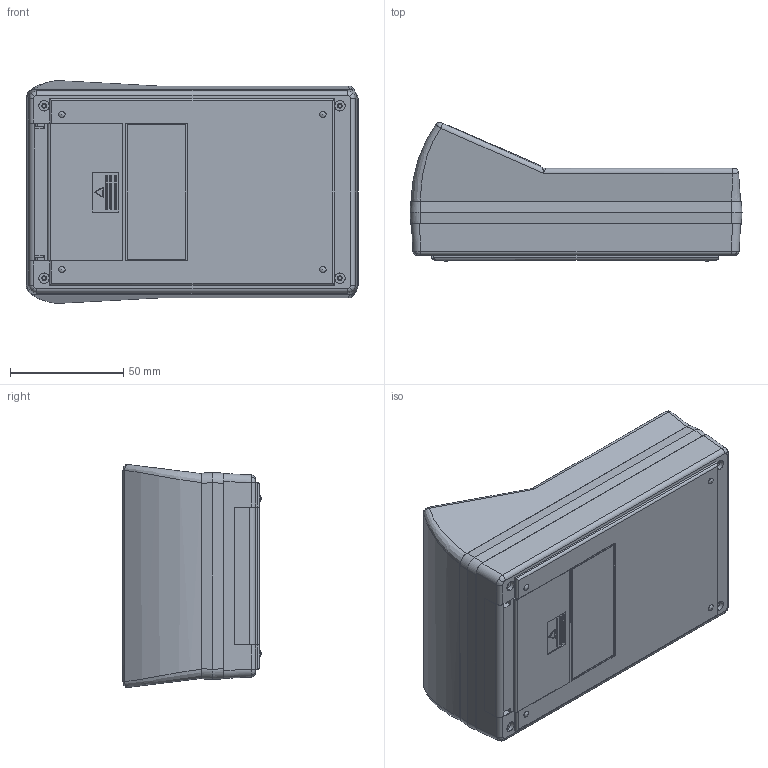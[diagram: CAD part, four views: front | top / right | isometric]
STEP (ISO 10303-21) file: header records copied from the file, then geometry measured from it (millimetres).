
FILE_DESCRIPTION (( 'STEP AP214' ), '1' );
FILE_NAME ('90-52-9V-E-R.STEP', '2020-10-15T16:14:57', ( 'Rudy' ), ( '' ), 'SwSTEP 2.0', 'SolidWorks 2014', '' );
FILE_SCHEMA (( 'AUTOMOTIVE_DESIGN' ));
Length unit declared in the file: millimetre
Products named in the file (7): 90-9V Shallow; 90-52-9V-E-R; 90 PCB 9V; 90 Angle LCD expander; 9V door; 90-bessel; Top Angled LCD
Assembly tree (6 placements, depth 2):
  90-52-9V-E-R
    90-9V Shallow
    Top Angled LCD
    90-bessel
    9V door
    90 Angle LCD expander
    90 PCB 9V
Bounding box: 146.8 x 61.22 x 98.54 mm (x, y, z)
Volume: 155133.3 mm3; surface area: 134631.7 mm2
Topology: 6 solids, 6 shells, 660 faces, 1719 edges, 1114 vertices
Faces by surface type: plane 409, cylinder 159, cone 52, bspline 20, torus 12, sphere 8
Entity records: 21363 total; most frequent: CARTESIAN_POINT 4989, ORIENTED_EDGE 3402, DIRECTION 3240, EDGE_CURVE 1701, VECTOR 1170, LINE 1170, VERTEX_POINT 1106, AXIS2_PLACEMENT_3D 1035
